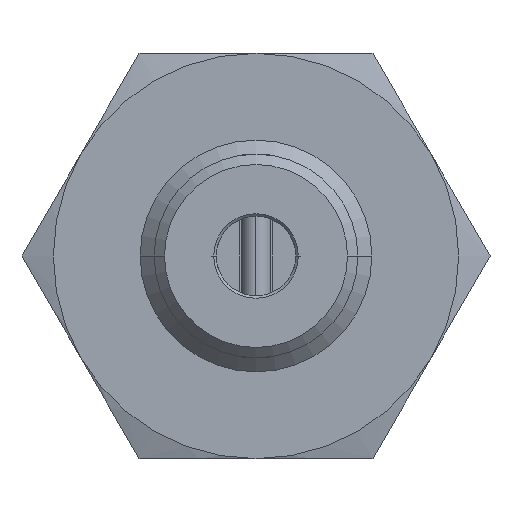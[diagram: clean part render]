
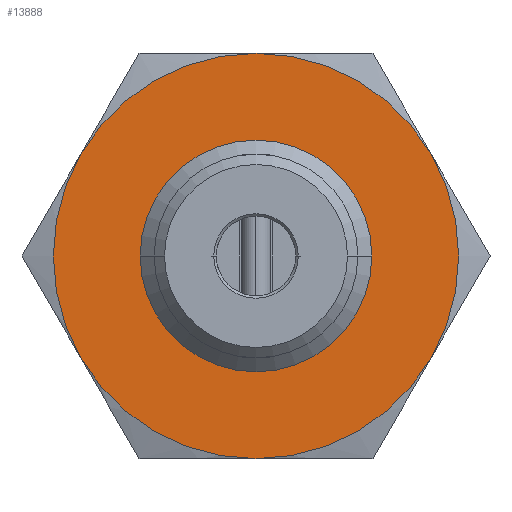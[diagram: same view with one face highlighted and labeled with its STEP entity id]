
A CAD part, left-side view. The second image highlights one B-rep face of the part: STEP entity #13888.
In plain terms, the highlighted free-form (B-spline) face has degree [1, 1] with [2, 2] control points.
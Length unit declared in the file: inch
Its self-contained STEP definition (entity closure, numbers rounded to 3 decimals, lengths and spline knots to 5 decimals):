
#4404=CARTESIAN_POINT('',(-0.2775,0.0,-0.4375));
#4405=VERTEX_POINT('',#4404);
#4439=CARTESIAN_POINT('',(-0.2775,0.,0.4375));
#4440=VERTEX_POINT('',#4439);
#4447=CARTESIAN_POINT('',(-0.2775,0.0,0.0));
#4448=DIRECTION('',(-1.0,0.0,0.0));
#4449=DIRECTION('',(0.0,0.0,-1.0));
#4450=AXIS2_PLACEMENT_3D('',#4447,#4448,#4449);
#4451=CIRCLE('',#4450,0.4375);
#4452=EDGE_CURVE('',#4405,#4440,#4451,.T.);
#7665=CARTESIAN_POINT('',(-0.2775,0.2495,0.0));
#7666=VERTEX_POINT('',#7665);
#7675=CARTESIAN_POINT('',(-0.2775,-0.2495,0.));
#7676=VERTEX_POINT('',#7675);
#7677=CARTESIAN_POINT('',(-0.2775,0.0,0.0));
#7678=DIRECTION('',(1.0,0.0,0.0));
#7679=DIRECTION('',(0.0,1.0,0.0));
#7680=AXIS2_PLACEMENT_3D('',#7677,#7678,#7679);
#7681=CIRCLE('',#7680,0.2495);
#7682=EDGE_CURVE('',#7676,#7666,#7681,.T.);
#9970=CARTESIAN_POINT('',(-0.2775,0.0,0.0));
#9971=DIRECTION('',(1.0,0.0,0.0));
#9972=DIRECTION('',(0.0,1.0,0.0));
#9973=AXIS2_PLACEMENT_3D('',#9970,#9971,#9972);
#9974=CIRCLE('',#9973,0.2495);
#9975=EDGE_CURVE('',#7666,#7676,#9974,.T.);
#13861=CARTESIAN_POINT('',(-0.2775,0.0,0.0));
#13862=DIRECTION('',(-1.0,0.0,0.0));
#13863=DIRECTION('',(0.0,0.0,-1.0));
#13864=AXIS2_PLACEMENT_3D('',#13861,#13862,#13863);
#13865=CIRCLE('',#13864,0.4375);
#13866=EDGE_CURVE('',#4440,#4405,#13865,.T.);
#13875=CARTESIAN_POINT('',(-0.2775,0.4375,0.4375));
#13876=CARTESIAN_POINT('',(-0.2775,0.4375,-0.4375));
#13877=CARTESIAN_POINT('',(-0.2775,-0.4375,0.4375));
#13878=CARTESIAN_POINT('',(-0.2775,-0.4375,-0.4375));
#13879=B_SPLINE_SURFACE_WITH_KNOTS('',1,1,((#13875,#13877),(#13876,#13878)),.UNSPECIFIED.,.F.,.F.,.U.,(2,2),(2,2),(0.0,0.875),(0.0,0.875),.UNSPECIFIED.);
#13880=ORIENTED_EDGE('',*,*,#4452,.T.);
#13881=ORIENTED_EDGE('',*,*,#13866,.T.);
#13882=EDGE_LOOP('',(#13880,#13881));
#13883=FACE_OUTER_BOUND('',#13882,.T.);
#13884=ORIENTED_EDGE('',*,*,#9975,.T.);
#13885=ORIENTED_EDGE('',*,*,#7682,.T.);
#13886=EDGE_LOOP('',(#13884,#13885));
#13887=FACE_BOUND('',#13886,.T.);
#13888=ADVANCED_FACE('',(#13883,#13887),#13879,.T.);
